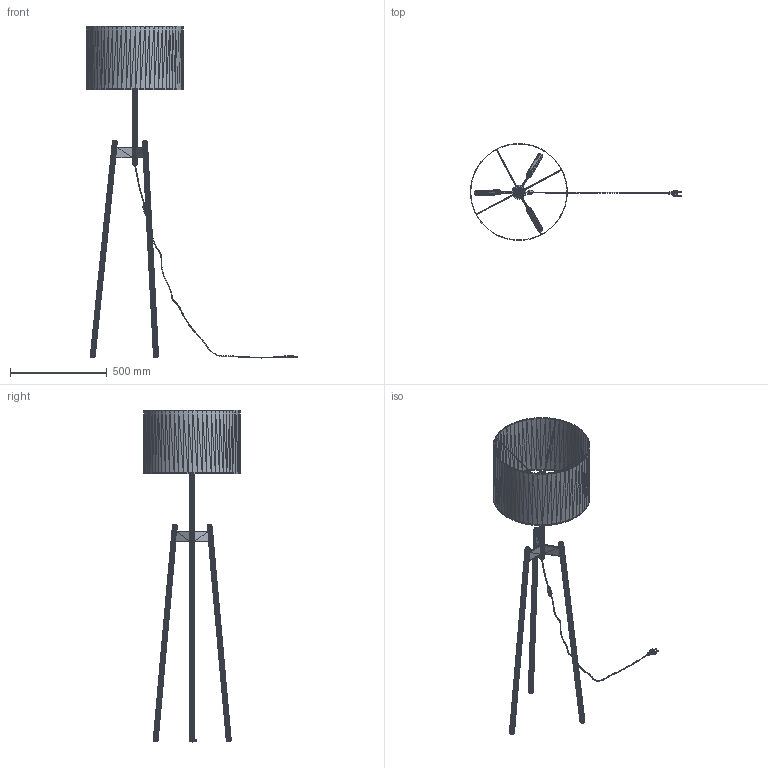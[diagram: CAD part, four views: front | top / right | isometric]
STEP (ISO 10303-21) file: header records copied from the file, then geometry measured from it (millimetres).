
FILE_DESCRIPTION(('FreeCAD Model'),'2;1');
FILE_NAME('Open CASCADE Shape Model','2022-11-29T21:29:46',('Author'),( ''),'Open CASCADE STEP processor 7.6','FreeCAD','Unknown');
FILE_SCHEMA(('AUTOMOTIVE_DESIGN { 1 0 10303 214 1 1 1 1 }'));
Length unit declared in the file: millimetre
Products named in the file (36): Unnamed; Mesh047 (Solid); Mesh001001 (Solid); Mesh002001 (Solid); Mesh003001 (Solid); Mesh004001 (Solid); Mesh005001 (Solid); Mesh006001 (Solid); Mesh007001 (Solid); Mesh008001 (Solid); Mesh009001 (Solid); Mesh010001 (Solid); Mesh011001 (Solid); Mesh012001 (Solid); Mesh013001 (Solid); Mesh014001 (Solid); Mesh015001 (Solid); Mesh016001 (Solid); Mesh017001 (Solid); Mesh018001 (Solid); Mesh019001 (Solid); Mesh020001 (Solid); Mesh021001 (Solid); Mesh034001 (Solid); Mesh035001 (Solid); Mesh036001 (Solid); Mesh037001 (Solid); Mesh038001 (Solid); Mesh039001 (Solid); Mesh040001 (Solid); Mesh041001 (Solid); Mesh042001 (Solid); Mesh043001 (Solid); Mesh044001 (Solid); Mesh045001 (Solid); Mesh046001 (Solid)
Assembly tree (35 placements, depth 2):
  Unnamed
    Mesh047 (Solid)
    Mesh001001 (Solid)
    Mesh002001 (Solid)
    Mesh003001 (Solid)
    Mesh004001 (Solid)
    Mesh005001 (Solid)
    Mesh006001 (Solid)
    Mesh007001 (Solid)
    Mesh008001 (Solid)
    Mesh009001 (Solid)
    Mesh010001 (Solid)
    Mesh011001 (Solid)
    Mesh012001 (Solid)
    Mesh013001 (Solid)
    Mesh014001 (Solid)
    Mesh015001 (Solid)
    Mesh016001 (Solid)
    Mesh017001 (Solid)
    Mesh018001 (Solid)
    Mesh019001 (Solid)
    Mesh020001 (Solid)
    Mesh021001 (Solid)
    Mesh034001 (Solid)
    Mesh035001 (Solid)
    Mesh036001 (Solid)
    Mesh037001 (Solid)
    Mesh038001 (Solid)
    Mesh039001 (Solid)
    Mesh040001 (Solid)
    Mesh041001 (Solid)
    Mesh042001 (Solid)
    Mesh043001 (Solid)
    Mesh044001 (Solid)
    Mesh045001 (Solid)
    Mesh046001 (Solid)
Bounding box: 1090.28 x 499.94 x 1715.16 mm (x, y, z)
Volume: 2216900.8 mm3; surface area: 985396 mm2
Topology: 24 solids, 69 shells, 24370 faces, 36770 edges, 12466 vertices
Faces by surface type: plane 24370
Entity records: 971682 total; most frequent: DIRECTION 161758, CARTESIAN_POINT 149530, LINE 111922, VECTOR 111922, ORIENTED_EDGE 74646, PCURVE 74416, DEFINITIONAL_REPRESENTATION 74416, EDGE_CURVE 37506
